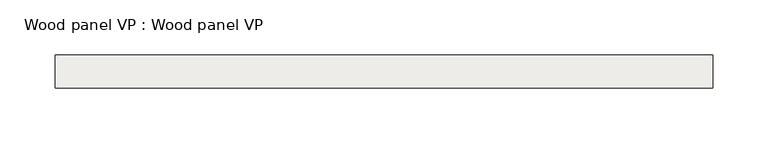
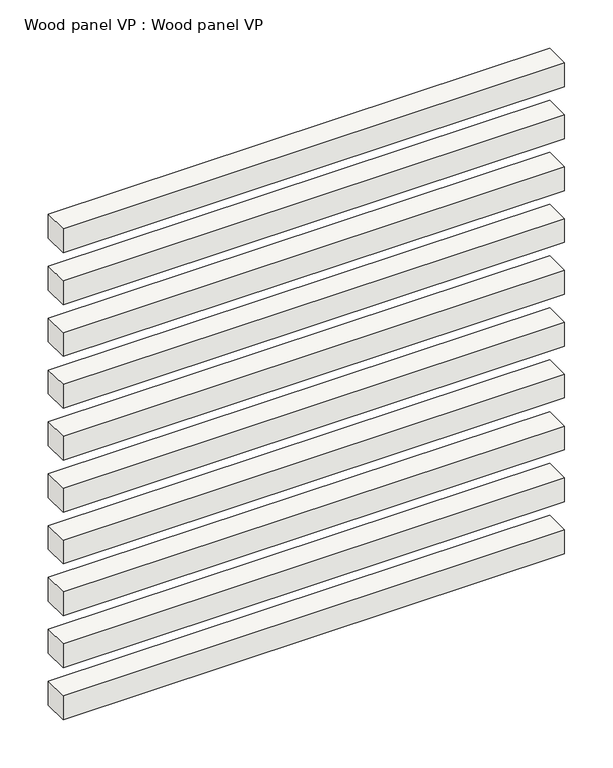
"""IFC4 building model written with IfcOpenShell, lengths in millimetres: covering geometry, Wood panel VP : Wood panel VP."""

from ifc_helpers import new_model, si_unit, frame, origin, origin_with_axes, place, context, project, spatial, polyline, outline, extrude, source, transform, mapped, element, save


def wood_panel_vp_wood_panel_vp_5256f62e(model_context):
    return source(origin(), model_context, "Body", "SweptSolid", [
        extrude(outline(polyline([(298.2404059, 89.5), (298.2404059, 59.5), (-298.2404059, 59.5), (-298.2404059, 89.5), (298.2404059, 89.5)])), origin_with_axes(), (0.0, 0.0, 1.0), 30.0),
        extrude(outline(polyline([(298.2404059, 89.5), (298.2404059, 59.5), (-298.2404059, 59.5), (-298.2404059, 89.5), (298.2404059, 89.5)])), frame((0.0, 0.0, 65.2799862), z_axis=(0.0, 0.0, 1.0), x_axis=(1.0, 0.0, 0.0)), (0.0, 0.0, 1.0), 30.0),
        extrude(outline(polyline([(298.2404059, 89.5), (298.2404059, 59.5), (-298.2404059, 59.5), (-298.2404059, 89.5), (298.2404059, 89.5)])), frame((0.0, 0.0, 130.5599723), z_axis=(0.0, 0.0, 1.0), x_axis=(1.0, 0.0, 0.0)), (0.0, 0.0, 1.0), 30.0),
        extrude(outline(polyline([(298.2404059, 89.5), (298.2404059, 59.5), (-298.2404059, 59.5), (-298.2404059, 89.5), (298.2404059, 89.5)])), frame((0.0, 0.0, 195.8399585), z_axis=(0.0, 0.0, 1.0), x_axis=(1.0, 0.0, 0.0)), (0.0, 0.0, 1.0), 30.0),
        extrude(outline(polyline([(298.2404059, 89.5), (298.2404059, 59.5), (-298.2404059, 59.5), (-298.2404059, 89.5), (298.2404059, 89.5)])), frame((0.0, 0.0, 261.1199446), z_axis=(0.0, 0.0, 1.0), x_axis=(1.0, 0.0, 0.0)), (0.0, 0.0, 1.0), 30.0),
        extrude(outline(polyline([(298.2404059, 89.5), (298.2404059, 59.5), (-298.2404059, 59.5), (-298.2404059, 89.5), (298.2404059, 89.5)])), frame((0.0, 0.0, 326.3999308), z_axis=(0.0, 0.0, 1.0), x_axis=(1.0, 0.0, 0.0)), (0.0, 0.0, 1.0), 30.0),
        extrude(outline(polyline([(298.2404059, 89.5), (298.2404059, 59.5), (-298.2404059, 59.5), (-298.2404059, 89.5), (298.2404059, 89.5)])), frame((0.0, 0.0, 391.6799169), z_axis=(0.0, 0.0, 1.0), x_axis=(1.0, 0.0, 0.0)), (0.0, 0.0, 1.0), 30.0),
        extrude(outline(polyline([(298.2404059, 89.5), (298.2404059, 59.5), (-298.2404059, 59.5), (-298.2404059, 89.5), (298.2404059, 89.5)])), frame((0.0, 0.0, 456.9599031), z_axis=(0.0, 0.0, 1.0), x_axis=(1.0, 0.0, 0.0)), (0.0, 0.0, 1.0), 30.0),
        extrude(outline(polyline([(298.2404059, 89.5), (298.2404059, 59.5), (-298.2404059, 59.5), (-298.2404059, 89.5), (298.2404059, 89.5)])), frame((0.0, 0.0, 522.2398892), z_axis=(0.0, 0.0, 1.0), x_axis=(1.0, 0.0, 0.0)), (0.0, 0.0, 1.0), 30.0),
        extrude(outline(polyline([(298.2404059, 89.5), (298.2404059, 59.5), (-298.2404059, 59.5), (-298.2404059, 89.5), (298.2404059, 89.5)])), frame((0.0, 0.0, 587.5198754), z_axis=(0.0, 0.0, 1.0), x_axis=(1.0, 0.0, 0.0)), (0.0, 0.0, 1.0), 30.0),
    ])


if __name__ == "__main__":
    model = new_model("IFC4")
    model_context = context("Model", 3, world=origin())
    ifc_project = project(units=[si_unit("LENGTHUNIT", "METRE", prefix="MILLI")], contexts=[model_context])
    site = spatial("IfcSite", under=ifc_project)
    building = spatial("IfcBuilding", under=site)
    placement = place(None, origin())
    wood_panel_vp_wood_panel_vp_shape = wood_panel_vp_wood_panel_vp_5256f62e(model_context)
    element("IfcCovering", 1, ObjectType="Wood panel VP : Wood panel VP", at=placement, inside=building, context=model_context, shape_type="MappedRepresentation", body=[
        mapped(wood_panel_vp_wood_panel_vp_shape, transform((0.0, 0.0, 0.0), x_axis=(1.0, 0.0, 0.0), y_axis=(0.0, 1.0, 0.0), z_axis=(0.0, 0.0, 1.0))),
    ])
    save(model, "model.ifc")
